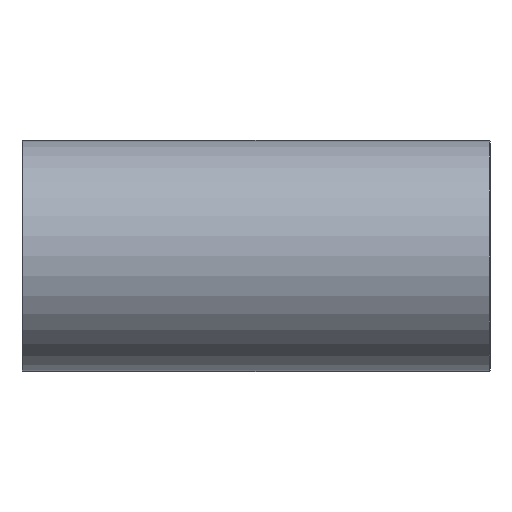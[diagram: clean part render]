
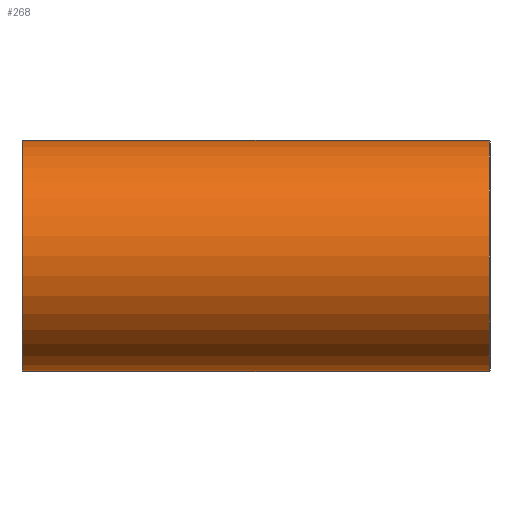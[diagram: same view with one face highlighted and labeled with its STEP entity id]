
A CAD part, front view. The second image highlights one B-rep face of the part: STEP entity #268.
In plain terms, the highlighted cylindrical face has radius 23.45 mm (diameter 46.9 mm), a full revolution.
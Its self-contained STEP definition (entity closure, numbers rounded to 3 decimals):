
#121=CARTESIAN_POINT('',(0.0,0.0,23.45));
#122=VERTEX_POINT('',#121);
#123=CARTESIAN_POINT('',(0.0,0.0,-23.45));
#124=VERTEX_POINT('',#123);
#221=CARTESIAN_POINT('',(-47.3,23.45,0.));
#222=VERTEX_POINT('',#221);
#223=CARTESIAN_POINT('',(-47.3,0.0,0.0));
#224=DIRECTION('',(-1.0,0.0,0.0));
#225=DIRECTION('',(0.0,-1.0,0.0));
#226=AXIS2_PLACEMENT_3D('',#223,#224,#225);
#227=CIRCLE('',#226,23.45);
#228=EDGE_CURVE('',#222,#222,#227,.T.);
#233=CARTESIAN_POINT('',(0.0,0.0,0.0));
#234=DIRECTION('',(1.0,0.0,0.0));
#235=DIRECTION('',(0.0,1.0,0.0));
#236=AXIS2_PLACEMENT_3D('',#233,#234,#235);
#237=CYLINDRICAL_SURFACE('',#236,23.45);
#238=CARTESIAN_POINT('',(47.3,23.45,0.));
#239=VERTEX_POINT('',#238);
#240=CARTESIAN_POINT('',(47.3,0.0,0.0));
#241=DIRECTION('',(1.0,0.0,0.0));
#242=DIRECTION('',(0.0,-1.0,0.0));
#243=AXIS2_PLACEMENT_3D('',#240,#241,#242);
#244=CIRCLE('',#243,23.45);
#245=EDGE_CURVE('',#239,#239,#244,.T.);
#246=ORIENTED_EDGE('',*,*,#245,.F.);
#247=EDGE_LOOP('',(#246));
#248=FACE_OUTER_BOUND('',#247,.T.);
#249=CARTESIAN_POINT('',(0.0,0.0,0.0));
#250=DIRECTION('',(-0.636,0.772,0.0));
#251=DIRECTION('',(0.772,0.636,0.0));
#252=AXIS2_PLACEMENT_3D('',#249,#250,#251);
#253=ELLIPSE('',#252,36.869,23.45);
#254=EDGE_CURVE('',#122,#124,#253,.T.);
#255=ORIENTED_EDGE('',*,*,#254,.F.);
#256=CARTESIAN_POINT('',(0.0,0.0,0.0));
#257=DIRECTION('',(0.636,0.772,0.0));
#258=DIRECTION('',(-0.772,0.636,0.0));
#259=AXIS2_PLACEMENT_3D('',#256,#257,#258);
#260=ELLIPSE('',#259,36.869,23.45);
#261=EDGE_CURVE('',#124,#122,#260,.T.);
#262=ORIENTED_EDGE('',*,*,#261,.F.);
#263=EDGE_LOOP('',(#255,#262));
#264=FACE_BOUND('',#263,.T.);
#265=ORIENTED_EDGE('',*,*,#228,.F.);
#266=EDGE_LOOP('',(#265));
#267=FACE_BOUND('',#266,.T.);
#268=ADVANCED_FACE('',(#248,#264,#267),#237,.T.);
